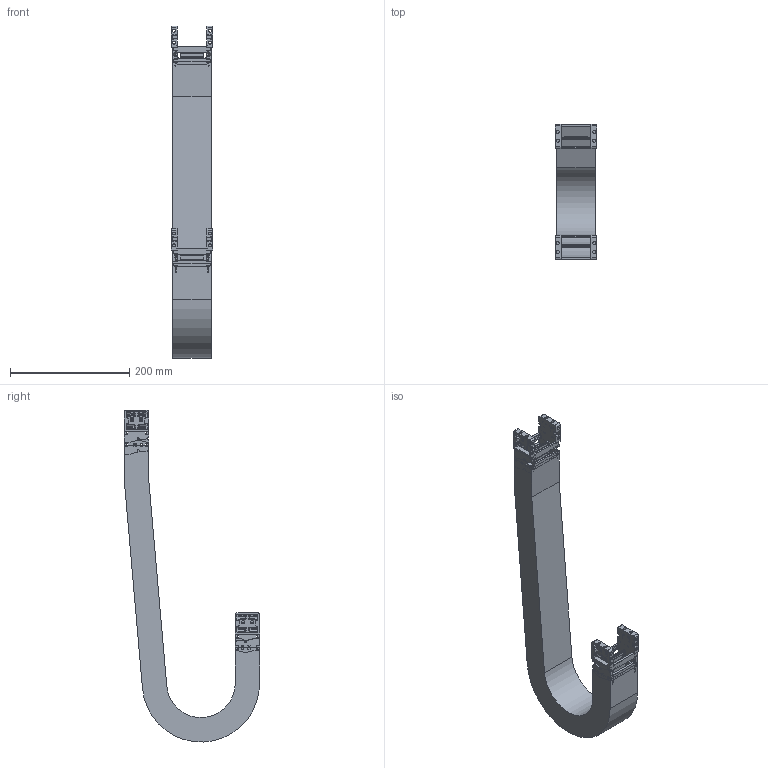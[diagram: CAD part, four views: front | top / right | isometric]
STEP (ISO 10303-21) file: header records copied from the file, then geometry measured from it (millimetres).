
FILE_DESCRIPTION((''),'2;1');
FILE_NAME('KST-30050-075_ASM','2017-12-05T',('KUNI004K'),(''),'PRO/ENGINEER BY PARAMETRIC TECHNOLOGY CORPORATION, 2015200','PRO/ENGINEER BY PARAMETRIC TECHNOLOGY CORPORATION, 2015200','');
FILE_SCHEMA(('AUTOMOTIVE_DESIGN { 1 0 10303 214 1 1 1 1 }'));
Length unit declared in the file: millimetre
Products named in the file (13): 30FBR; 30FBL; 25050C; 30FB_W050_ASM; 30075R; 30075L; 25050H; KST30050-075_1_ASM; KST30050_R75_BODY; 30MBR; 30MBL; 30MB_W050_ASM; KST-30050-075_ASM
Assembly tree (19 placements, depth 3):
  KST-30050-075_ASM
    30FB_W050_ASM
      30FBR
      30FBL
      25050C  x2
    KST30050-075_1_ASM  x2
      30075R
      30075L
      25050C
      25050H
    KST30050_R75_BODY
    30MB_W050_ASM
      30MBR
      30MBL
      25050C  x2
Bounding box: 70 x 227 x 557.21 mm (x, y, z)
Volume: 892051.9 mm3; surface area: 403941.8 mm2
Topology: 21 solids, 21 shells, 2628 faces, 7238 edges, 4672 vertices
Faces by surface type: plane 1354, cylinder 930, bspline 216, torus 64, sphere 64
Entity records: 71824 total; most frequent: CARTESIAN_POINT 15872, ORIENTED_EDGE 7576, DIRECTION 6744, PRESENTATION_STYLE_ASSIGNMENT 5140, STYLED_ITEM 5140, CURVE_STYLE 3788, EDGE_CURVE 3788, VERTEX_POINT 2472
